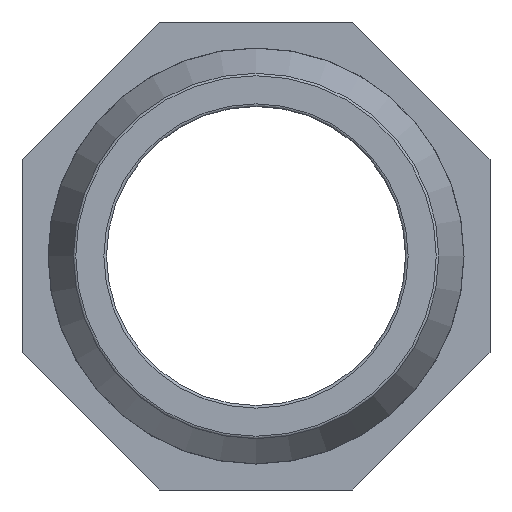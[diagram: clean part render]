
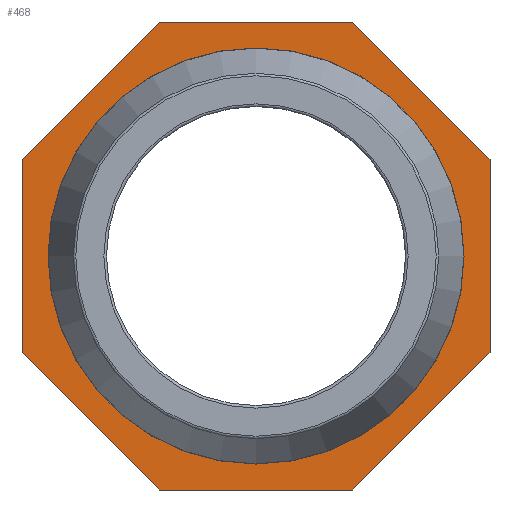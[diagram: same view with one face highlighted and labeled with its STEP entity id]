
A CAD part, front view. The second image highlights one B-rep face of the part: STEP entity #468.
In plain terms, the highlighted planar face has unit normal (0, -1, 0).
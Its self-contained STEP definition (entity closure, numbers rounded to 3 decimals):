
#36=FACE_BOUND('',#139,.T.);
#65=CIRCLE('',#508,16.);
#101=FACE_OUTER_BOUND('',#138,.T.);
#138=EDGE_LOOP('',(#372,#373,#374,#375,#376,#377,#378,#379));
#139=EDGE_LOOP('',(#380));
#196=LINE('',#724,#220);
#200=LINE('',#732,#224);
#203=LINE('',#738,#227);
#206=LINE('',#744,#230);
#209=LINE('',#750,#233);
#212=LINE('',#756,#236);
#215=LINE('',#762,#239);
#218=LINE('',#767,#242);
#220=VECTOR('',#568,14.912);
#224=VECTOR('',#574,14.912);
#227=VECTOR('',#579,14.912);
#230=VECTOR('',#584,14.912);
#233=VECTOR('',#589,14.912);
#236=VECTOR('',#594,14.912);
#239=VECTOR('',#599,14.912);
#242=VECTOR('',#604,14.912);
#244=VERTEX_POINT('',#722);
#245=VERTEX_POINT('',#723);
#248=VERTEX_POINT('',#731);
#250=VERTEX_POINT('',#737);
#252=VERTEX_POINT('',#743);
#254=VERTEX_POINT('',#749);
#256=VERTEX_POINT('',#755);
#258=VERTEX_POINT('',#761);
#260=VERTEX_POINT('',#770);
#288=EDGE_CURVE('',#244,#245,#196,.T.);
#292=EDGE_CURVE('',#245,#248,#200,.T.);
#295=EDGE_CURVE('',#248,#250,#203,.T.);
#298=EDGE_CURVE('',#250,#252,#206,.T.);
#301=EDGE_CURVE('',#252,#254,#209,.T.);
#304=EDGE_CURVE('',#254,#256,#212,.T.);
#307=EDGE_CURVE('',#256,#258,#215,.T.);
#310=EDGE_CURVE('',#258,#244,#218,.T.);
#312=EDGE_CURVE('',#260,#260,#65,.T.);
#372=ORIENTED_EDGE('',*,*,#310,.T.);
#373=ORIENTED_EDGE('',*,*,#288,.T.);
#374=ORIENTED_EDGE('',*,*,#292,.T.);
#375=ORIENTED_EDGE('',*,*,#295,.T.);
#376=ORIENTED_EDGE('',*,*,#298,.T.);
#377=ORIENTED_EDGE('',*,*,#301,.T.);
#378=ORIENTED_EDGE('',*,*,#304,.T.);
#379=ORIENTED_EDGE('',*,*,#307,.T.);
#380=ORIENTED_EDGE('',*,*,#312,.F.);
#452=PLANE('',#507);
#468=ADVANCED_FACE('',(#101,#36),#452,.F.);
#507=AXIS2_PLACEMENT_3D('',#769,#606,#607);
#508=AXIS2_PLACEMENT_3D('',#771,#608,#609);
#568=DIRECTION('',(0.707,0.,-0.707));
#574=DIRECTION('',(1.,0.,0.));
#579=DIRECTION('',(0.707,0.,0.707));
#584=DIRECTION('',(0.,0.,1.));
#589=DIRECTION('',(-0.707,0.,0.707));
#594=DIRECTION('',(-1.,0.,0.));
#599=DIRECTION('',(-0.707,0.,-0.707));
#604=DIRECTION('',(0.,0.,-1.));
#606=DIRECTION('center_axis',(0.,1.,0.));
#607=DIRECTION('ref_axis',(0.,0.,1.));
#608=DIRECTION('center_axis',(0.,-1.,0.));
#609=DIRECTION('ref_axis',(-1.,0.,0.));
#722=CARTESIAN_POINT('',(-18.,22.,-7.456));
#723=CARTESIAN_POINT('',(-7.456,22.,-18.));
#724=CARTESIAN_POINT('',(-18.,22.,-7.456));
#731=CARTESIAN_POINT('',(7.456,22.,-18.));
#732=CARTESIAN_POINT('',(-7.456,22.,-18.));
#737=CARTESIAN_POINT('',(18.,22.,-7.456));
#738=CARTESIAN_POINT('',(7.456,22.,-18.));
#743=CARTESIAN_POINT('',(18.,22.,7.456));
#744=CARTESIAN_POINT('',(18.,22.,-7.456));
#749=CARTESIAN_POINT('',(7.456,22.,18.));
#750=CARTESIAN_POINT('',(18.,22.,7.456));
#755=CARTESIAN_POINT('',(-7.456,22.,18.));
#756=CARTESIAN_POINT('',(7.456,22.,18.));
#761=CARTESIAN_POINT('',(-18.,22.,7.456));
#762=CARTESIAN_POINT('',(-7.456,22.,18.));
#767=CARTESIAN_POINT('',(-18.,22.,7.456));
#769=CARTESIAN_POINT('Origin',(0.,22.,0.));
#770=CARTESIAN_POINT('',(-16.,22.,0.));
#771=CARTESIAN_POINT('Origin',(0.,22.,0.));
